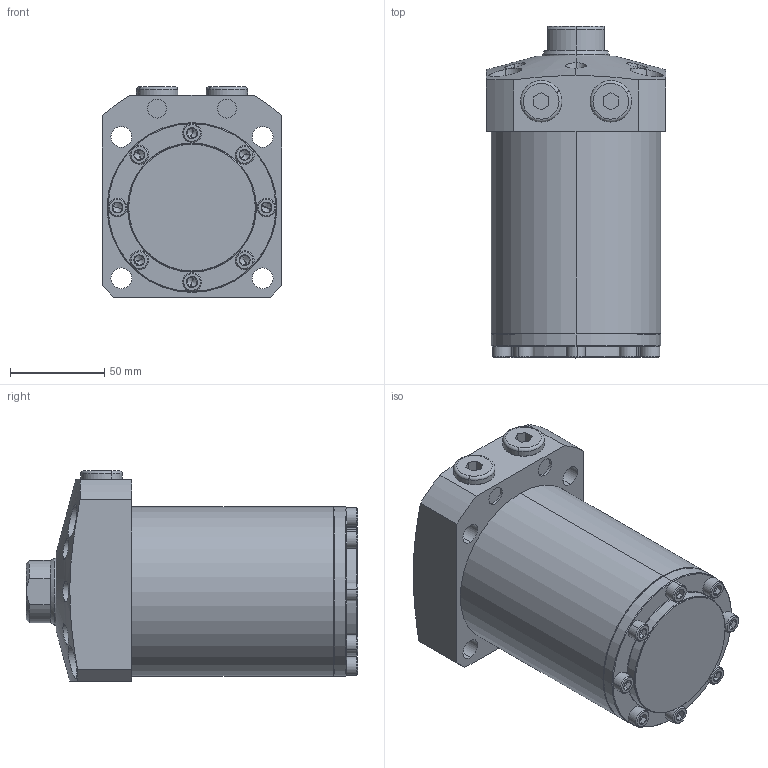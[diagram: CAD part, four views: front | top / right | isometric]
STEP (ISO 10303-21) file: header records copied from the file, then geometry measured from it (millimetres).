
FILE_DESCRIPTION (( 'STEP AP203' ), '1' );
FILE_NAME ('680900-CA-076.step', '2016-11-02T03:28:45', ( 'wxp' ), ( '' ), 'SwSTEP 2.0', 'SolidWorks 2011', '' );
FILE_SCHEMA (( 'CONFIG_CONTROL_DESIGN' ));
Length unit declared in the file: millimetre
Products named in the file (7): 680900-CA-076; 葩璃 68090-CA-76-6^680900-CA-076; 葩璃 68090-CA-76-5^680900-CA-076; 葩璃 68090-CA-76-4^680900-CA-076; 葩璃 68090-CA-76-3^680900-CA-076; 葩璃 68090-CA-76-2^680900-CA-076; 葩璃 68090-CA-76-1^680900-CA-076
Assembly tree (21 placements, depth 2):
  680900-CA-076
    葩璃 68090-CA-76-4^680900-CA-076  x8
    葩璃 68090-CA-76-6^680900-CA-076  x2
    葩璃 68090-CA-76-5^680900-CA-076  x8
    葩璃 68090-CA-76-3^680900-CA-076
    葩璃 68090-CA-76-2^680900-CA-076
    葩璃 68090-CA-76-1^680900-CA-076
Bounding box: 95 x 176 x 111.5 mm (x, y, z)
Volume: 1084826.3 mm3; surface area: 127900.6 mm2
Topology: 21 solids, 21 shells, 683 faces, 1277 edges, 660 vertices
Faces by surface type: plane 298, cone 216, cylinder 153, torus 16
Entity records: 8262 total; most frequent: CARTESIAN_POINT 2190, DIRECTION 1137, ORIENTED_EDGE 926, AXIS2_PLACEMENT_3D 477, EDGE_CURVE 463, VERTEX_POINT 278, EDGE_LOOP 273, CIRCLE 230
